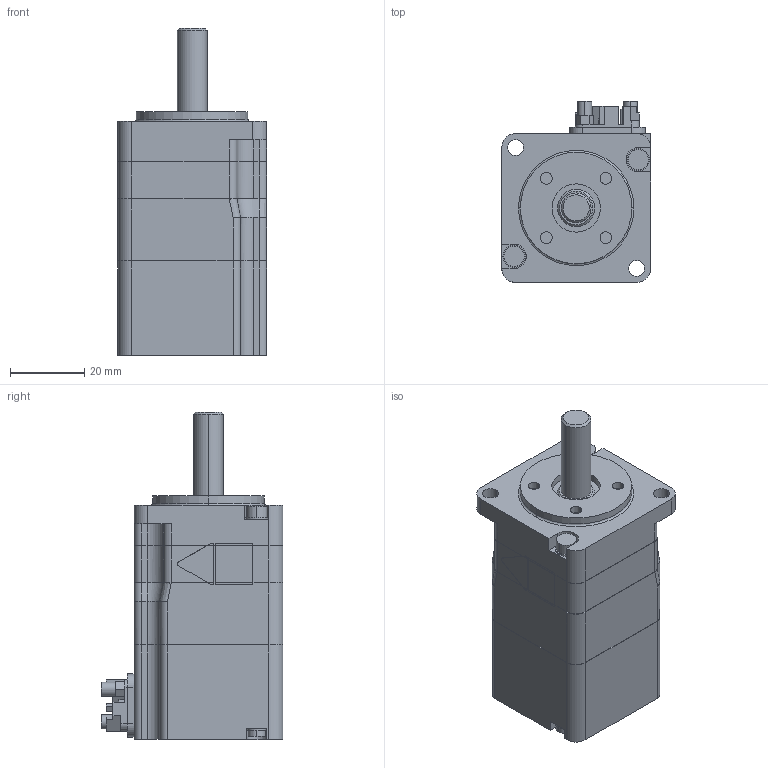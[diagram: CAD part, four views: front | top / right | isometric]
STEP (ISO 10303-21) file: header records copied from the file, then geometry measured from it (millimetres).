
FILE_DESCRIPTION (( 'STEP AP214' ), '1' );
FILE_NAME ('sgmxj_a5awa21a1.STEP', '2021-01-21T00:27:44', ( 'EN00457-1' ), ( 'Hewlett-Packard Company' ), 'SwSTEP 2.0', 'SolidWorks 2016', '' );
FILE_SCHEMA (( 'AUTOMOTIVE_DESIGN' ));
Length unit declared in the file: millimetre
Products named in the file (1): sgmxj_a5awa21a1
Bounding box: 40.1 x 48.8 x 88.1 mm (x, y, z)
Volume: 97307.5 mm3; surface area: 16086.9 mm2
Topology: 1 solids, 1 shells, 345 faces, 925 edges, 609 vertices
Faces by surface type: plane 204, cylinder 124, bspline 11, cone 4, torus 2
Entity records: 14867 total; most frequent: CARTESIAN_POINT 2254, ORIENTED_EDGE 1850, DIRECTION 1810, EDGE_CURVE 925, VECTOR 630, LINE 630, VERTEX_POINT 609, AXIS2_PLACEMENT_3D 590
